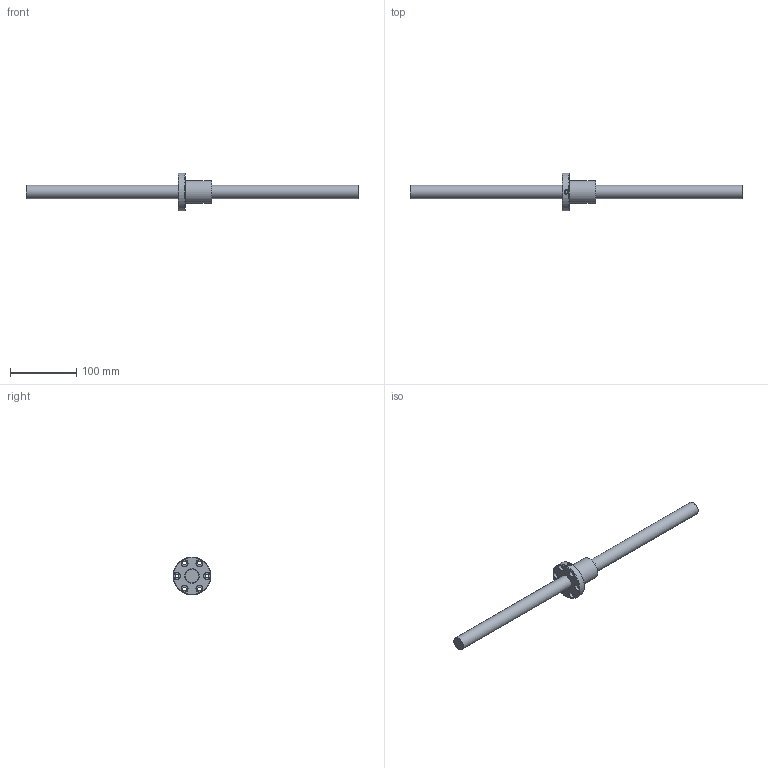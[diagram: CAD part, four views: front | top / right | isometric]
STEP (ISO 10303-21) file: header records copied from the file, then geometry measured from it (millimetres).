
FILE_DESCRIPTION (( 'STEP AP203' ), '1' );
FILE_NAME ('SFNI02005N-4.step', '2024-05-16T01:21:28', ( '' ), ( '' ), 'SwSTEP 2.0', 'SolidWorks 2022', '' );
FILE_SCHEMA (( 'CONFIG_CONTROL_DESIGN' ));
Length unit declared in the file: millimetre
Products named in the file (1): SFNI02005N-4
Bounding box: 500 x 57 x 57 mm (x, y, z)
Volume: 198340 mm3; surface area: 47440.5 mm2
Topology: 2 solids, 2 shells, 57 faces, 143 edges, 90 vertices
Faces by surface type: cylinder 24, cone 13, plane 12, bspline 5, torus 3
Full cylindrical faces by diameter (mm): 4 x1, 5 x6, 5.5 x6, 9.5 x6, 20 x1, 22.1 x1, 34 x1, 57 x1
Entity records: 3096 total; most frequent: CARTESIAN_POINT 2045, DIRECTION 206, ORIENTED_EDGE 148, EDGE_LOOP 102, AXIS2_PLACEMENT_3D 101, EDGE_CURVE 74, FACE_OUTER_BOUND 72, VERTEX_POINT 64
